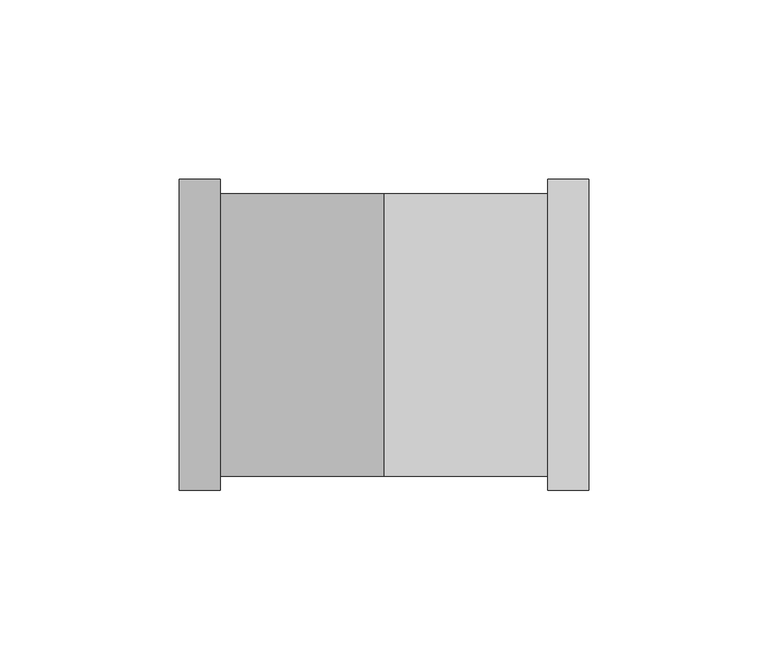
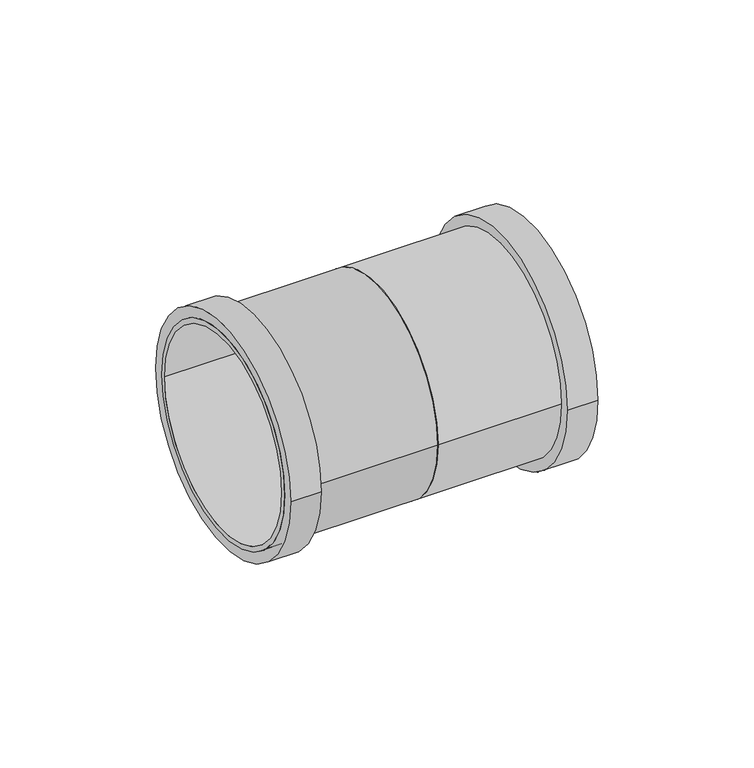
"""IFC4 building model written with IfcOpenShell, lengths in millimetres: pipe fitting geometry, Superdrain HTU-coupler : Superdrain HTU-coupler."""

from ifc_helpers import new_model, si_unit, point, frame, origin, origin_2d, place, context, project, spatial, circle_curve, trimmed, segment, composite_curve, outline, extrude, source, transform, mapped, element, save


def pipe_fitting_d5d9e85b(model_context):
    return source(origin(), model_context, "Body", "SweptSolid", [
        extrude(outline(composite_curve([segment(trimmed(circle_curve(origin_2d(), 39.375), [point((39.375, 0.0))], [point((-39.375, 0.0))], False, "CARTESIAN"), True, "CONTINUOUS"), segment(trimmed(circle_curve(origin_2d(), 39.375), [point((-39.375, 0.0))], [point((39.375, 0.0))], False, "CARTESIAN"), True, "CONTINUOUS")], self_intersect=False), holes=[composite_curve([segment(trimmed(circle_curve(origin_2d(), 37.5), [point((37.5, 0.0))], [point((-37.5, 0.0))], True, "CARTESIAN"), True, "CONTINUOUS"), segment(trimmed(circle_curve(origin_2d(), 37.5), [point((-37.5, 0.0))], [point((37.5, 0.0))], True, "CARTESIAN"), True, "CONTINUOUS")], self_intersect=False)]), frame((0.0, 0.0, 0.0), z_axis=(1.0, 0.0, 0.0), x_axis=(0.0, 1.0, 0.0)), (0.0, 0.0, 1.0), 57.0),
        extrude(outline(composite_curve([segment(trimmed(circle_curve(origin_2d(), 43.3125), [point((43.3125, 0.0))], [point((-43.3125, 0.0))], False, "CARTESIAN"), True, "CONTINUOUS"), segment(trimmed(circle_curve(origin_2d(), 43.3125), [point((-43.3125, 0.0))], [point((43.3125, 0.0))], False, "CARTESIAN"), True, "CONTINUOUS")], self_intersect=False), holes=[composite_curve([segment(trimmed(circle_curve(origin_2d(), 37.5), [point((37.5, 0.0))], [point((-37.5, 0.0))], True, "CARTESIAN"), True, "CONTINUOUS"), segment(trimmed(circle_curve(origin_2d(), 37.5), [point((-37.5, 0.0))], [point((37.5, 0.0))], True, "CARTESIAN"), True, "CONTINUOUS")], self_intersect=False)]), frame((45.6, 0.0, 0.0), z_axis=(1.0, 0.0, 0.0), x_axis=(0.0, 1.0, 0.0)), (0.0, 0.0, 1.0), 11.4),
        extrude(outline(composite_curve([segment(trimmed(circle_curve(origin_2d(), 39.375), [point((-39.375, 0.0))], [point((39.375, 0.0))], False, "CARTESIAN"), True, "CONTINUOUS"), segment(trimmed(circle_curve(origin_2d(), 39.375), [point((39.375, 0.0))], [point((-39.375, 0.0))], False, "CARTESIAN"), True, "CONTINUOUS")], self_intersect=False), holes=[composite_curve([segment(trimmed(circle_curve(origin_2d(), 37.5), [point((-37.5, 0.0))], [point((37.5, 0.0))], True, "CARTESIAN"), True, "CONTINUOUS"), segment(trimmed(circle_curve(origin_2d(), 37.5), [point((37.5, 0.0))], [point((-37.5, 0.0))], True, "CARTESIAN"), True, "CONTINUOUS")], self_intersect=False)]), frame((-57.0, 0.0, 0.0), z_axis=(1.0, 0.0, 0.0), x_axis=(0.0, 1.0, 0.0)), (0.0, 0.0, 1.0), 57.0),
        extrude(outline(composite_curve([segment(trimmed(circle_curve(origin_2d(), 43.3125), [point((-43.3125, 0.0))], [point((43.3125, 0.0))], False, "CARTESIAN"), True, "CONTINUOUS"), segment(trimmed(circle_curve(origin_2d(), 43.3125), [point((43.3125, 0.0))], [point((-43.3125, 0.0))], False, "CARTESIAN"), True, "CONTINUOUS")], self_intersect=False), holes=[composite_curve([segment(trimmed(circle_curve(origin_2d(), 37.5), [point((-37.5, 0.0))], [point((37.5, 0.0))], True, "CARTESIAN"), True, "CONTINUOUS"), segment(trimmed(circle_curve(origin_2d(), 37.5), [point((37.5, 0.0))], [point((-37.5, 0.0))], True, "CARTESIAN"), True, "CONTINUOUS")], self_intersect=False)]), frame((-57.0, 0.0, 0.0), z_axis=(1.0, 0.0, 0.0), x_axis=(0.0, 1.0, 0.0)), (0.0, 0.0, 1.0), 11.4),
    ])


if __name__ == "__main__":
    model = new_model("IFC4")
    model_context = context("Model", 3, world=origin())
    ifc_project = project(units=[si_unit("LENGTHUNIT", "METRE", prefix="MILLI")], contexts=[model_context])
    site = spatial("IfcSite", under=ifc_project)
    building = spatial("IfcBuilding", under=site)
    placement = place(None, origin())
    pipe_fitting_shape = pipe_fitting_d5d9e85b(model_context)
    element("IfcPipeFitting", 1, ObjectType="Superdrain HTU-coupler : Superdrain HTU-coupler", at=placement, inside=building, context=model_context, shape_type="MappedRepresentation", body=[
        mapped(pipe_fitting_shape, transform((0.0, 0.0, 0.0), x_axis=(1.0, 0.0, 0.0), y_axis=(0.0, 1.0, 0.0), z_axis=(0.0, 0.0, 1.0))),
    ])
    save(model, "model.ifc")
